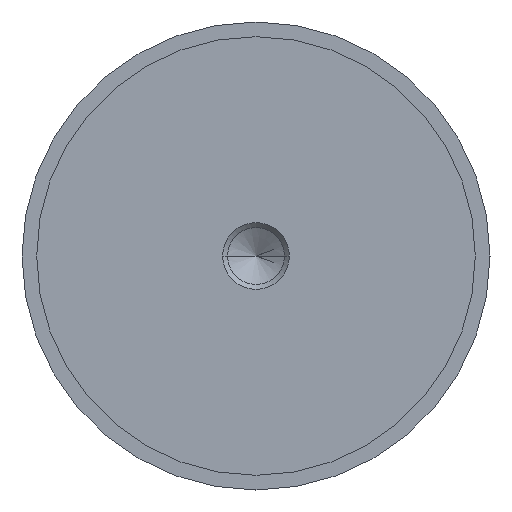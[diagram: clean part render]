
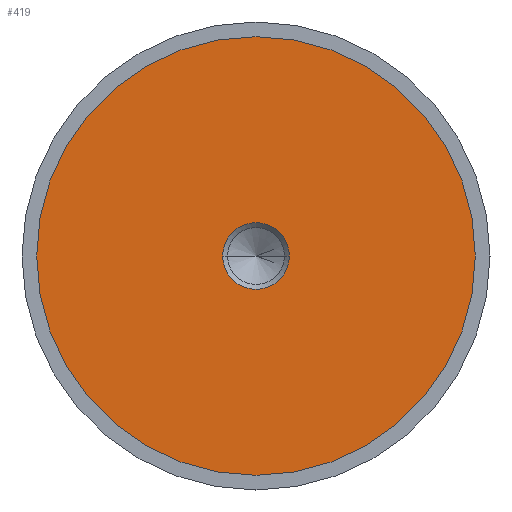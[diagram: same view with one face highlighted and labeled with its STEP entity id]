
A CAD part, left-side view. The second image highlights one B-rep face of the part: STEP entity #419.
In plain terms, the highlighted planar face has unit normal (-1, 0, 0).
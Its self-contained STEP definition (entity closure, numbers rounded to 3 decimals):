
#20 = VERTEX_POINT ( 'NONE', #495 ) ;
#21 = DIRECTION ( 'NONE',  ( -1., 0., 0. ) ) ;
#94 = DIRECTION ( 'NONE',  ( 1., 0., 0. ) ) ;
#142 = EDGE_LOOP ( 'NONE', ( #455, #584 ) ) ;
#163 = DIRECTION ( 'NONE',  ( -1., 0., 0. ) ) ;
#177 = EDGE_CURVE ( 'NONE', #596, #20, #470, .T. ) ;
#195 = ORIENTED_EDGE ( 'NONE', *, *, #293, .T. ) ;
#225 = AXIS2_PLACEMENT_3D ( 'NONE', #267, #163, #276 ) ;
#267 = CARTESIAN_POINT ( 'NONE',  ( -22.49, 0., 0. ) ) ;
#269 = CIRCLE ( 'NONE', #225, 32.8 ) ;
#271 = AXIS2_PLACEMENT_3D ( 'NONE', #633, #702, #403 ) ;
#272 = EDGE_CURVE ( 'NONE', #20, #596, #589, .T. ) ;
#275 = DIRECTION ( 'NONE',  ( 0., 0., -1. ) ) ;
#276 = DIRECTION ( 'NONE',  ( 0., 0., 1. ) ) ;
#293 = EDGE_CURVE ( 'NONE', #607, #639, #707, .T. ) ;
#300 = CARTESIAN_POINT ( 'NONE',  ( -22.49, 0., 0. ) ) ;
#310 = AXIS2_PLACEMENT_3D ( 'NONE', #340, #508, #275 ) ;
#316 = FACE_BOUND ( 'NONE', #142, .T. ) ;
#340 = CARTESIAN_POINT ( 'NONE',  ( -22.49, 0., 0. ) ) ;
#357 = CARTESIAN_POINT ( 'NONE',  ( -22.49, 0., -32.8 ) ) ;
#366 = FACE_OUTER_BOUND ( 'NONE', #635, .T. ) ;
#380 = ORIENTED_EDGE ( 'NONE', *, *, #728, .T. ) ;
#383 = AXIS2_PLACEMENT_3D ( 'NONE', #300, #21, #459 ) ;
#403 = DIRECTION ( 'NONE',  ( 0., 0., -1. ) ) ;
#419 = ADVANCED_FACE ( 'NONE', ( #316, #366 ), #655, .F. ) ;
#422 = DIRECTION ( 'NONE',  ( 0., 0., -1. ) ) ;
#455 = ORIENTED_EDGE ( 'NONE', *, *, #272, .T. ) ;
#459 = DIRECTION ( 'NONE',  ( 0., 0., 1. ) ) ;
#466 = CARTESIAN_POINT ( 'NONE',  ( -22.49, 4.99, 0. ) ) ;
#470 = CIRCLE ( 'NONE', #310, 4.99 ) ;
#488 = CARTESIAN_POINT ( 'NONE',  ( -22.49, 0., 32.8 ) ) ;
#494 = AXIS2_PLACEMENT_3D ( 'NONE', #595, #94, #422 ) ;
#495 = CARTESIAN_POINT ( 'NONE',  ( -22.49, -4.99, 0. ) ) ;
#508 = DIRECTION ( 'NONE',  ( 1., 0., 0. ) ) ;
#584 = ORIENTED_EDGE ( 'NONE', *, *, #177, .T. ) ;
#589 = CIRCLE ( 'NONE', #271, 4.99 ) ;
#595 = CARTESIAN_POINT ( 'NONE',  ( -22.49, 32.8, 0. ) ) ;
#596 = VERTEX_POINT ( 'NONE', #466 ) ;
#607 = VERTEX_POINT ( 'NONE', #357 ) ;
#633 = CARTESIAN_POINT ( 'NONE',  ( -22.49, 0., 0. ) ) ;
#635 = EDGE_LOOP ( 'NONE', ( #380, #195 ) ) ;
#639 = VERTEX_POINT ( 'NONE', #488 ) ;
#655 = PLANE ( 'NONE',  #494 ) ;
#702 = DIRECTION ( 'NONE',  ( 1., 0., 0. ) ) ;
#707 = CIRCLE ( 'NONE', #383, 32.8 ) ;
#728 = EDGE_CURVE ( 'NONE', #639, #607, #269, .T. ) ;
